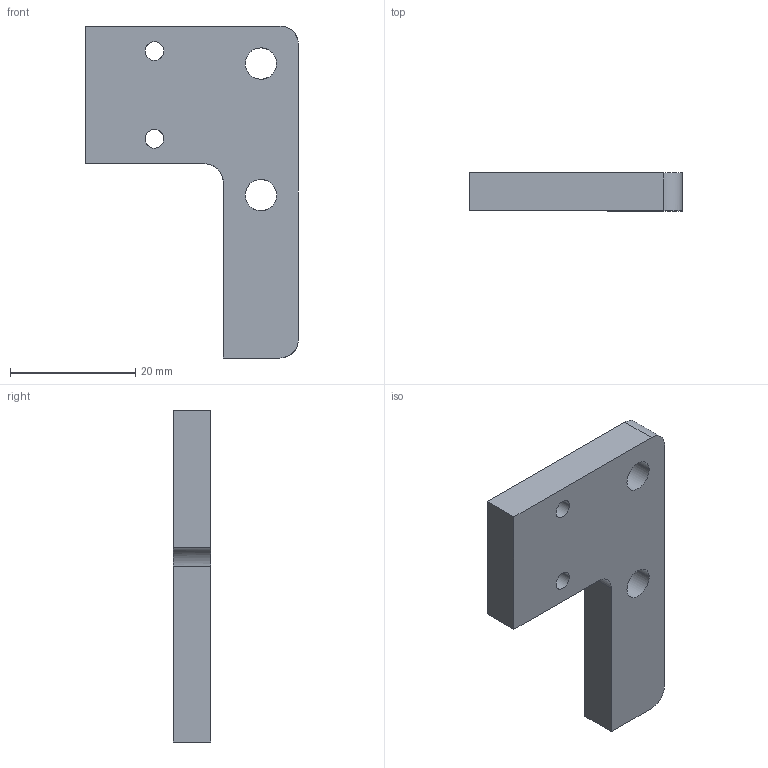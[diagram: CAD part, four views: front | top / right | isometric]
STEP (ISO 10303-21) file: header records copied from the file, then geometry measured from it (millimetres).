
FILE_DESCRIPTION(/* description */ (''),/* implementation_level */ '2;1');
FILE_NAME(/* name */ '8.x-drive#8.9#la-mpk-7',/* time_stamp */ '2014-12-01T20:18:43+01:00',/* author */ (''),/* organization */ (''),/* preprocessor_version */ 'ST-DEVELOPER v14',/* originating_system */ '',/* authorisation */ '');
FILE_SCHEMA (('AUTOMOTIVE_DESIGN'));
Length unit declared in the file: millimetre
Products named in the file (1): Document
Bounding box: 34 x 6 x 53 mm (x, y, z)
Volume: 6387 mm3; surface area: 3451.5 mm2
Topology: 1 solids, 1 shells, 19 faces, 51 edges, 34 vertices
Faces by surface type: bspline 17, plane 2
Entity records: 1297 total; most frequent: CARTESIAN_POINT 674, ORIENTED_EDGE 102, PCURVE 102, DEFINITIONAL_REPRESENTATION 102, B_SPLINE_CURVE_WITH_KNOTS 68, SURFACE_CURVE 51, EDGE_CURVE 51, VERTEX_POINT 34
